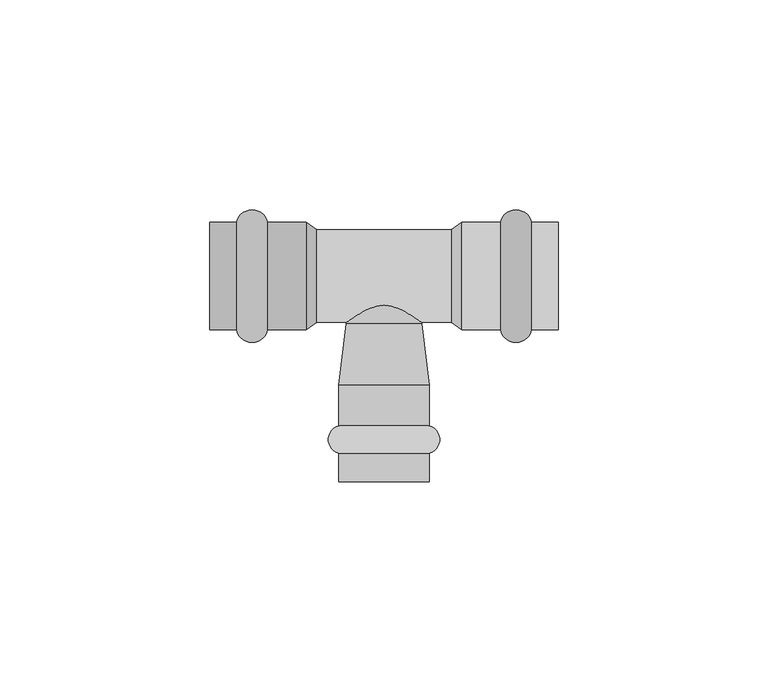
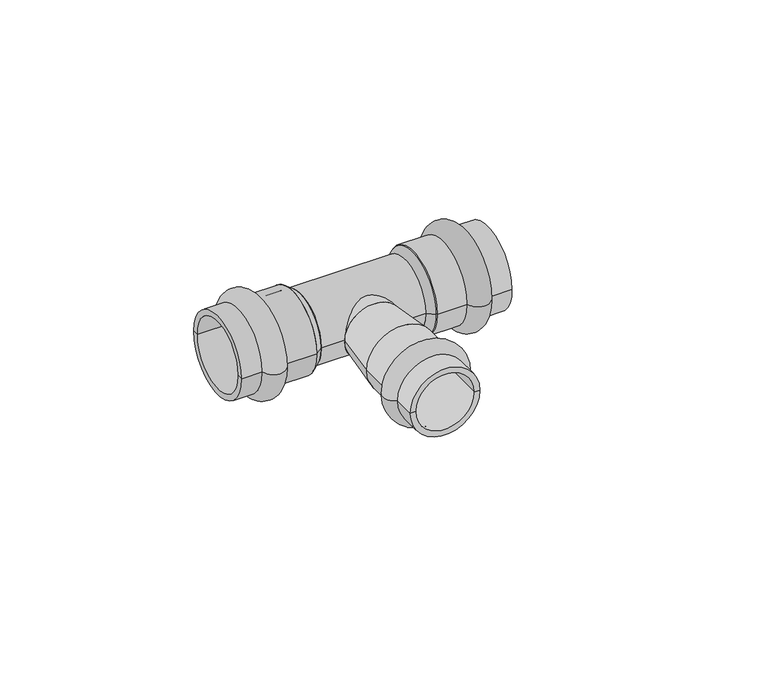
"""IFC4 building model written with IfcOpenShell, lengths in millimetres: pipe fitting geometry, VALTEC_VTi.931.I_Тройник_Ннержавеющая сталь : VTi.931.I."""

from ifc_helpers import new_model, si_unit, point, frame, origin, origin_2d, place, context, project, spatial, polyline, circle_curve, ellipse_curve, trimmed, segment, composite_curve, outline, extrude, source, transform, mapped, element, save
from ifc_brep_helpers import plane_surface, cylinder_surface, revolved_surface, advanced_brep


def pipe_fitting_d51ae848(model_context):
    return source(origin(), model_context, "Body", "SolidModel", [
        advanced_brep(
        [(10.75, -42.2287193, 0.0), (-10.75, -42.2287193, 0.0), (-10.75, -35.6712807, 0.0), (10.75, -35.6712807, 0.0), (10.75, -49.0, 0.0), (-10.75, -49.0, 0.0), (9.0, -49.0, 0.0), (-9.0, -49.0, 0.0), (9.0, -26.0, 0.0), (-9.0, -26.0, 0.0), (10.75, -26.0, 0.0), (-10.75, -26.0, 0.0)],
        [
            (0, 1, circle_curve(frame((0.0, -42.2287193, 0.0), z_axis=(0.0, 1.0, 0.0), x_axis=(-1.0, 0.0, 0.0)), 10.75)),
            (1, 2, circle_curve(frame((-9.85, -38.95, 0.0), z_axis=(0.0, 0.0, -1.0), x_axis=(0.0, 1.0, 0.0)), 3.4)),
            (2, 3, circle_curve(frame((0.0, -35.6712807, 0.0), z_axis=(0.0, -1.0, 0.0), x_axis=(-1.0, 0.0, 0.0)), 10.75)),
            (3, 0, circle_curve(frame((9.85, -38.95, 0.0), z_axis=(0.0, 0.0, -1.0), x_axis=(0.0, 1.0, 0.0)), 3.4)),
            (1, 0, circle_curve(frame((0.0, -42.2287193, 0.0), z_axis=(0.0, 1.0, 0.0), x_axis=(-1.0, 0.0, 0.0)), 10.75)),
            (3, 2, circle_curve(frame((0.0, -35.6712807, 0.0), z_axis=(0.0, -1.0, 0.0), x_axis=(-1.0, 0.0, 0.0)), 10.75)),
            (4, 5, circle_curve(frame((0.0, -49.0, 0.0), z_axis=(0.0, 1.0, 0.0), x_axis=(-1.0, 0.0, 0.0)), 10.75)),
            (5, 1),
            (0, 4),
            (5, 4, circle_curve(frame((0.0, -49.0, 0.0), z_axis=(0.0, 1.0, 0.0), x_axis=(-1.0, 0.0, 0.0)), 10.75)),
            (6, 7, circle_curve(frame((0.0, -49.0, 0.0), z_axis=(0.0, 1.0, 0.0), x_axis=(-1.0, 0.0, 0.0)), 9.0)),
            (7, 5),
            (4, 6),
            (7, 6, circle_curve(frame((0.0, -49.0, 0.0), z_axis=(0.0, 1.0, 0.0), x_axis=(-1.0, 0.0, 0.0)), 9.0)),
            (8, 9, circle_curve(frame((0.0, -26.0, 0.0), z_axis=(0.0, 1.0, 0.0), x_axis=(-1.0, 0.0, 0.0)), 9.0)),
            (9, 7),
            (6, 8),
            (9, 8, circle_curve(frame((0.0, -26.0, 0.0), z_axis=(0.0, 1.0, 0.0), x_axis=(-1.0, 0.0, 0.0)), 9.0)),
            (10, 11, circle_curve(frame((0.0, -26.0, 0.0), z_axis=(0.0, 1.0, 0.0), x_axis=(-1.0, 0.0, 0.0)), 10.75)),
            (11, 9),
            (8, 10),
            (11, 10, circle_curve(frame((0.0, -26.0, 0.0), z_axis=(0.0, 1.0, 0.0), x_axis=(-1.0, 0.0, 0.0)), 10.75)),
            (2, 11),
            (10, 3),
        ],
        [
            revolved_surface(trimmed(ellipse_curve(frame((-9.85, -38.95, 0.0), z_axis=(0.0, 0.0, 1.0), x_axis=(0.0, 1.0, 0.0)), 3.4, 3.4), [point((-10.75, -35.6712807, 0.0))], [point((-10.75, -42.2287193, 0.0))], True, "CARTESIAN"), (0.0, -52.5364426, 0.0), (0.0, -1.0, 0.0)),
            cylinder_surface(frame((0.0, -52.5364426, 0.0), z_axis=(0.0, -1.0, 0.0), x_axis=(-1.0, 0.0, 0.0)), 10.75),
            plane_surface(frame((0.0, -49.0, 0.0), z_axis=(0.0, -1.0, 0.0), x_axis=(-1.0, 0.0, 0.0))),
            revolved_surface(polyline([(-9.0, -49.0, 0.0), (-9.0, -26.0, 0.0)]), (0.0, -52.5364426, 0.0), (0.0, -1.0, 0.0)),
            plane_surface(frame((0.0, -26.0, 0.0), z_axis=(0.0, 1.0, 0.0), x_axis=(-1.0, 0.0, 0.0))),
        ],
        [
            (0, [[1, 2, 3, 4]]),
            (0, [[5, -4, 6, -2]]),
            (1, [[7, 8, -1, 9]]),
            (1, [[10, -9, -5, -8]]),
            (2, [[11, 12, -7, 13]]),
            (2, [[14, -13, -10, -12]]),
            (3, [[15, 16, -11, 17]]),
            (3, [[18, -17, -14, -16]]),
            (4, [[19, 20, -15, 21]]),
            (4, [[22, -21, -18, -20]]),
            (1, [[-3, 23, -19, 24]]),
            (1, [[-6, -24, -22, -23]]),
        ],
    ),
        advanced_brep(
        [(35.1242346, 12.8, 0.0), (35.1242346, -12.8, 0.0), (27.7757654, -12.8, 0.0), (27.7757654, 12.8, 0.0), (41.5, 12.8, 0.0), (41.5, -12.8, 0.0), (41.5, 11.0, 0.0), (41.5, -11.0, 0.0), (18.5, 11.0, 0.0), (18.5, -11.0, 0.0), (18.5, 12.8, 0.0), (18.5, -12.8, 0.0)],
        [
            (0, 1, circle_curve(frame((35.1242346, 0.0, 0.0), z_axis=(-1.0, 0.0, 0.0), x_axis=(0.0, -1.0, 0.0)), 12.8)),
            (1, 2, circle_curve(frame((31.45, -12.05, 0.0), z_axis=(0.0, 0.0, -1.0), x_axis=(-1.0, 0.0, 0.0)), 3.75)),
            (2, 3, circle_curve(frame((27.7757654, 0.0, 0.0), z_axis=(1.0, 0.0, 0.0), x_axis=(0.0, -1.0, 0.0)), 12.8)),
            (3, 0, circle_curve(frame((31.45, 12.05, 0.0), z_axis=(0.0, 0.0, -1.0), x_axis=(-1.0, 0.0, 0.0)), 3.75)),
            (1, 0, circle_curve(frame((35.1242346, 0.0, 0.0), z_axis=(-1.0, 0.0, 0.0), x_axis=(0.0, -1.0, 0.0)), 12.8)),
            (3, 2, circle_curve(frame((27.7757654, 0.0, 0.0), z_axis=(1.0, 0.0, 0.0), x_axis=(0.0, -1.0, 0.0)), 12.8)),
            (4, 5, circle_curve(frame((41.5, 0.0, 0.0), z_axis=(-1.0, 0.0, 0.0), x_axis=(0.0, -1.0, 0.0)), 12.8)),
            (5, 1),
            (0, 4),
            (5, 4, circle_curve(frame((41.5, 0.0, 0.0), z_axis=(-1.0, 0.0, 0.0), x_axis=(0.0, -1.0, 0.0)), 12.8)),
            (6, 7, circle_curve(frame((41.5, 0.0, 0.0), z_axis=(-1.0, 0.0, 0.0), x_axis=(0.0, -1.0, 0.0)), 11.0)),
            (7, 5),
            (4, 6),
            (7, 6, circle_curve(frame((41.5, 0.0, 0.0), z_axis=(-1.0, 0.0, 0.0), x_axis=(0.0, -1.0, 0.0)), 11.0)),
            (8, 9, circle_curve(frame((18.5, 0.0, 0.0), z_axis=(-1.0, 0.0, 0.0), x_axis=(0.0, -1.0, 0.0)), 11.0)),
            (9, 7),
            (6, 8),
            (9, 8, circle_curve(frame((18.5, 0.0, 0.0), z_axis=(-1.0, 0.0, 0.0), x_axis=(0.0, -1.0, 0.0)), 11.0)),
            (10, 11, circle_curve(frame((18.5, 0.0, 0.0), z_axis=(-1.0, 0.0, 0.0), x_axis=(0.0, -1.0, 0.0)), 12.8)),
            (11, 9),
            (8, 10),
            (11, 10, circle_curve(frame((18.5, 0.0, 0.0), z_axis=(-1.0, 0.0, 0.0), x_axis=(0.0, -1.0, 0.0)), 12.8)),
            (2, 11),
            (10, 3),
        ],
        [
            revolved_surface(trimmed(ellipse_curve(frame((31.45, -12.05, 0.0), z_axis=(0.0, 0.0, 1.0), x_axis=(-1.0, 0.0, 0.0)), 3.75, 3.75), [point((27.7757654, -12.8, 0.0))], [point((35.1242346, -12.8, 0.0))], True, "CARTESIAN"), (45.0364426, 0.0, 0.0), (1.0, 0.0, 0.0)),
            cylinder_surface(frame((45.0364426, 0.0, 0.0), z_axis=(1.0, 0.0, 0.0), x_axis=(0.0, -1.0, 0.0)), 12.8),
            plane_surface(frame((41.5, 0.0, 0.0), z_axis=(1.0, 0.0, 0.0), x_axis=(0.0, -1.0, 0.0))),
            revolved_surface(polyline([(41.5, -11.0, 0.0), (18.5, -11.0, 0.0)]), (45.0364426, 0.0, 0.0), (1.0, 0.0, 0.0)),
            plane_surface(frame((18.5, 0.0, 0.0), z_axis=(-1.0, 0.0, 0.0), x_axis=(0.0, -1.0, 0.0))),
        ],
        [
            (0, [[1, 2, 3, 4]]),
            (0, [[5, -4, 6, -2]]),
            (1, [[7, 8, -1, 9]]),
            (1, [[10, -9, -5, -8]]),
            (2, [[11, 12, -7, 13]]),
            (2, [[14, -13, -10, -12]]),
            (3, [[15, 16, -11, 17]]),
            (3, [[18, -17, -14, -16]]),
            (4, [[19, 20, -15, 21]]),
            (4, [[22, -21, -18, -20]]),
            (1, [[-3, 23, -19, 24]]),
            (1, [[-6, -24, -22, -23]]),
        ],
    ),
        advanced_brep(
        [(-35.1242346, -12.8, 0.0), (-35.1242346, 12.8, 0.0), (-27.7757654, 12.8, 0.0), (-27.7757654, -12.8, 0.0), (-41.5, -12.8, 0.0), (-41.5, 12.8, 0.0), (-41.5, -11.0, 0.0), (-41.5, 11.0, 0.0), (-18.5, -11.0, 0.0), (-18.5, 11.0, 0.0), (-18.5, -12.8, 0.0), (-18.5, 12.8, 0.0)],
        [
            (0, 1, circle_curve(frame((-35.1242346, 0.0, 0.0), z_axis=(1.0, 0.0, 0.0), x_axis=(0.0, 1.0, 0.0)), 12.8)),
            (1, 2, circle_curve(frame((-31.45, 12.05, 0.0), z_axis=(0.0, 0.0, -1.0), x_axis=(1.0, 0.0, 0.0)), 3.75)),
            (2, 3, circle_curve(frame((-27.7757654, 0.0, 0.0), z_axis=(-1.0, 0.0, 0.0), x_axis=(0.0, 1.0, 0.0)), 12.8)),
            (3, 0, circle_curve(frame((-31.45, -12.05, 0.0), z_axis=(0.0, 0.0, -1.0), x_axis=(1.0, 0.0, 0.0)), 3.75)),
            (1, 0, circle_curve(frame((-35.1242346, 0.0, 0.0), z_axis=(1.0, 0.0, 0.0), x_axis=(0.0, 1.0, 0.0)), 12.8)),
            (3, 2, circle_curve(frame((-27.7757654, 0.0, 0.0), z_axis=(-1.0, 0.0, 0.0), x_axis=(0.0, 1.0, 0.0)), 12.8)),
            (4, 5, circle_curve(frame((-41.5, 0.0, 0.0), z_axis=(1.0, 0.0, 0.0), x_axis=(0.0, 1.0, 0.0)), 12.8)),
            (5, 1),
            (0, 4),
            (5, 4, circle_curve(frame((-41.5, 0.0, 0.0), z_axis=(1.0, 0.0, 0.0), x_axis=(0.0, 1.0, 0.0)), 12.8)),
            (6, 7, circle_curve(frame((-41.5, 0.0, 0.0), z_axis=(1.0, 0.0, 0.0), x_axis=(0.0, 1.0, 0.0)), 11.0)),
            (7, 5),
            (4, 6),
            (7, 6, circle_curve(frame((-41.5, 0.0, 0.0), z_axis=(1.0, 0.0, 0.0), x_axis=(0.0, 1.0, 0.0)), 11.0)),
            (8, 9, circle_curve(frame((-18.5, 0.0, 0.0), z_axis=(1.0, 0.0, 0.0), x_axis=(0.0, 1.0, 0.0)), 11.0)),
            (9, 7),
            (6, 8),
            (9, 8, circle_curve(frame((-18.5, 0.0, 0.0), z_axis=(1.0, 0.0, 0.0), x_axis=(0.0, 1.0, 0.0)), 11.0)),
            (10, 11, circle_curve(frame((-18.5, 0.0, 0.0), z_axis=(1.0, 0.0, 0.0), x_axis=(0.0, 1.0, 0.0)), 12.8)),
            (11, 9),
            (8, 10),
            (11, 10, circle_curve(frame((-18.5, 0.0, 0.0), z_axis=(1.0, 0.0, 0.0), x_axis=(0.0, 1.0, 0.0)), 12.8)),
            (2, 11),
            (10, 3),
        ],
        [
            revolved_surface(trimmed(ellipse_curve(frame((-31.45, 12.05, 0.0), z_axis=(0.0, 0.0, 1.0), x_axis=(1.0, 0.0, 0.0)), 3.75, 3.75), [point((-27.7757654, 12.8, 0.0))], [point((-35.1242346, 12.8, 0.0))], True, "CARTESIAN"), (-45.0364426, 0.0, 0.0), (-1.0, 0.0, 0.0)),
            cylinder_surface(frame((-45.0364426, 0.0, 0.0), z_axis=(-1.0, 0.0, 0.0), x_axis=(0.0, 1.0, 0.0)), 12.8),
            plane_surface(frame((-41.5, 0.0, 0.0), z_axis=(-1.0, 0.0, 0.0), x_axis=(0.0, 1.0, 0.0))),
            revolved_surface(polyline([(-41.5, 11.0, 0.0), (-18.5, 11.0, 0.0)]), (-45.0364426, 0.0, 0.0), (-1.0, 0.0, 0.0)),
            plane_surface(frame((-18.5, 0.0, 0.0), z_axis=(1.0, 0.0, 0.0), x_axis=(0.0, 1.0, 0.0))),
        ],
        [
            (0, [[1, 2, 3, 4]]),
            (0, [[5, -4, 6, -2]]),
            (1, [[7, 8, -1, 9]]),
            (1, [[10, -9, -5, -8]]),
            (2, [[11, 12, -7, 13]]),
            (2, [[14, -13, -10, -12]]),
            (3, [[15, 16, -11, 17]]),
            (3, [[18, -17, -14, -16]]),
            (4, [[19, 20, -15, 21]]),
            (4, [[22, -21, -18, -20]]),
            (1, [[-3, 23, -19, 24]]),
            (1, [[-6, -24, -22, -23]]),
        ],
    ),
        extrude(outline(composite_curve([segment(trimmed(circle_curve(origin_2d(), 11.0), [point((-11.0, 0.0))], [point((11.0, 0.0))], False, "CARTESIAN"), True, "CONTINUOUS"), segment(trimmed(circle_curve(origin_2d(), 11.0), [point((11.0, 0.0))], [point((-11.0, 0.0))], False, "CARTESIAN"), True, "CONTINUOUS")], self_intersect=False)), frame((-16.0, 0.0, 0.0), z_axis=(1.0, 0.0, 0.0), x_axis=(0.0, 1.0, 0.0)), (0.0, 0.0, 1.0), 32.0),
        advanced_brep(
        [(-10.75, -26.0, 0.0), (10.75, -26.0, 0.0), (-9.0, -11.3209826, 0.0), (9.0, -11.3209826, 0.0)],
        [
            (0, 1, circle_curve(frame((0.0, -26.0, 0.0), z_axis=(0.0, -1.0, 0.0), x_axis=(-1.0, 0.0, 0.0)), 10.75)),
            (1, 0, circle_curve(frame((0.0, -26.0, 0.0), z_axis=(0.0, -1.0, 0.0), x_axis=(1.0, 0.0, 0.0)), 10.75)),
            (2, 3, circle_curve(frame((0.0, -11.3209826, 0.0), z_axis=(0.0, 1.0, 0.0), x_axis=(1.0, 0.0, 0.0)), 9.0)),
            (3, 2, circle_curve(frame((0.0, -11.3209826, 0.0), z_axis=(0.0, 1.0, 0.0), x_axis=(-1.0, 0.0, 0.0)), 9.0)),
            (3, 1),
            (0, 2),
        ],
        [
            plane_surface(frame((0.0, -26.0, 0.0), z_axis=(0.0, -1.0, 0.0), x_axis=(0.0, 0.0, 1.0))),
            plane_surface(frame((0.0, -11.3209826, 0.0), z_axis=(0.0, 1.0, 0.0), x_axis=(0.0, 0.0, 1.0))),
            revolved_surface(polyline([(9.00000000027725, -11.320982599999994, 0.0), (10.75, -26.0, 0.0)]), (0.0, 64.1711069, 0.0), (0.0, -1.0, 0.0)),
            revolved_surface(polyline([(-9.00000000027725, -11.320982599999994, 0.0), (-10.75, -26.0, 0.0)]), (0.0, 64.1711069, 0.0), (0.0, -1.0, 0.0)),
        ],
        [
            (0, [[1, 2]]),
            (1, [[3, 4]]),
            (2, [[-4, 5, -1, 6]]),
            (3, [[-3, -6, -2, -5]]),
        ],
    ),
        extrude(outline(composite_curve([segment(trimmed(circle_curve(origin_2d(), 9.0), [point((0.0, -9.0))], [point((0.0, 9.0))], False, "CARTESIAN"), True, "CONTINUOUS"), segment(trimmed(circle_curve(origin_2d(), 9.0), [point((0.0, 9.0))], [point((0.0, -9.0))], False, "CARTESIAN"), True, "CONTINUOUS")], self_intersect=False)), frame((0.0, -11.3209826, 0.0), z_axis=(0.0, 1.0, 0.0), x_axis=(0.0, 0.0, 1.0)), (0.0, 0.0, 1.0), 11.3209826),
        advanced_brep(
        [(18.5, -12.8, 0.0), (18.5, 12.8, 0.0), (16.0, -11.0, 0.0), (16.0, 11.0, 0.0)],
        [
            (0, 1, circle_curve(frame((18.5, 0.0, 0.0), z_axis=(1.0, 0.0, 0.0), x_axis=(0.0, -1.0, 0.0)), 12.8)),
            (1, 0, circle_curve(frame((18.5, 0.0, 0.0), z_axis=(1.0, 0.0, 0.0), x_axis=(0.0, 1.0, 0.0)), 12.8)),
            (2, 3, circle_curve(frame((16.0, 0.0, 0.0), z_axis=(-1.0, 0.0, 0.0), x_axis=(0.0, 1.0, 0.0)), 11.0)),
            (3, 2, circle_curve(frame((16.0, 0.0, 0.0), z_axis=(-1.0, 0.0, 0.0), x_axis=(0.0, -1.0, 0.0)), 11.0)),
            (3, 1),
            (0, 2),
        ],
        [
            plane_surface(frame((18.5, 0.0, 0.0), z_axis=(1.0, 0.0, 0.0), x_axis=(0.0, 0.0, 1.0))),
            plane_surface(frame((16.0, 0.0, 0.0), z_axis=(-1.0, 0.0, 0.0), x_axis=(0.0, 0.0, 1.0))),
            revolved_surface(polyline([(16.0, 11.000000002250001, 0.0), (18.5, 12.8, 0.0)]), (0.7222222, 0.0, 0.0), (1.0, 0.0, 0.0)),
            revolved_surface(polyline([(16.0, -11.000000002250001, 0.0), (18.5, -12.8, 0.0)]), (0.7222222, 0.0, 0.0), (1.0, 0.0, 0.0)),
        ],
        [
            (0, [[1, 2]]),
            (1, [[3, 4]]),
            (2, [[-4, 5, -1, 6]]),
            (3, [[-3, -6, -2, -5]]),
        ],
    ),
        advanced_brep(
        [(-18.5, -12.8, 0.0), (-18.5, 12.8, 0.0), (-16.0, -11.0, 0.0), (-16.0, 11.0, 0.0)],
        [
            (0, 1, circle_curve(frame((-18.5, 0.0, 0.0), z_axis=(-1.0, 0.0, 0.0), x_axis=(0.0, -1.0, 0.0)), 12.8)),
            (1, 0, circle_curve(frame((-18.5, 0.0, 0.0), z_axis=(-1.0, 0.0, 0.0), x_axis=(0.0, 1.0, 0.0)), 12.8)),
            (2, 3, circle_curve(frame((-16.0, 0.0, 0.0), z_axis=(1.0, 0.0, 0.0), x_axis=(0.0, 1.0, 0.0)), 11.0)),
            (3, 2, circle_curve(frame((-16.0, 0.0, 0.0), z_axis=(1.0, 0.0, 0.0), x_axis=(0.0, -1.0, 0.0)), 11.0)),
            (2, 0),
            (1, 3),
        ],
        [
            plane_surface(frame((-18.5, 0.0, 0.0), z_axis=(-1.0, 0.0, 0.0), x_axis=(0.0, 0.0, -1.0))),
            plane_surface(frame((-16.0, 0.0, 0.0), z_axis=(1.0, 0.0, 0.0), x_axis=(0.0, 0.0, -1.0))),
            revolved_surface(polyline([(-16.0, -11.000000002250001, 0.0), (-18.5, -12.8, 0.0)]), (-0.7222222, 0.0, 0.0), (-1.0, 0.0, 0.0)),
            revolved_surface(polyline([(-16.0, 11.000000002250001, 0.0), (-18.5, 12.8, 0.0)]), (-0.7222222, 0.0, 0.0), (-1.0, 0.0, 0.0)),
        ],
        [
            (0, [[1, 2]]),
            (1, [[3, 4]]),
            (2, [[-3, 5, -2, 6]]),
            (3, [[-4, -6, -1, -5]]),
        ],
    ),
    ])


if __name__ == "__main__":
    model = new_model("IFC4")
    model_context = context("Model", 3, world=origin())
    ifc_project = project(units=[si_unit("LENGTHUNIT", "METRE", prefix="MILLI")], contexts=[model_context])
    site = spatial("IfcSite", under=ifc_project)
    building = spatial("IfcBuilding", under=site)
    placement = place(None, origin())
    pipe_fitting_shape = pipe_fitting_d51ae848(model_context)
    element("IfcPipeFitting", 1, ObjectType="VALTEC_VTi.931.I_Тройник_Ннержавеющая сталь : VTi.931.I", at=placement, inside=building, context=model_context, shape_type="MappedRepresentation", body=[
        mapped(pipe_fitting_shape, transform((0.0, 0.0, 0.0), x_axis=(1.0, 0.0, 0.0), y_axis=(0.0, 1.0, 0.0), z_axis=(0.0, 0.0, 1.0))),
    ])
    save(model, "model.ifc")
